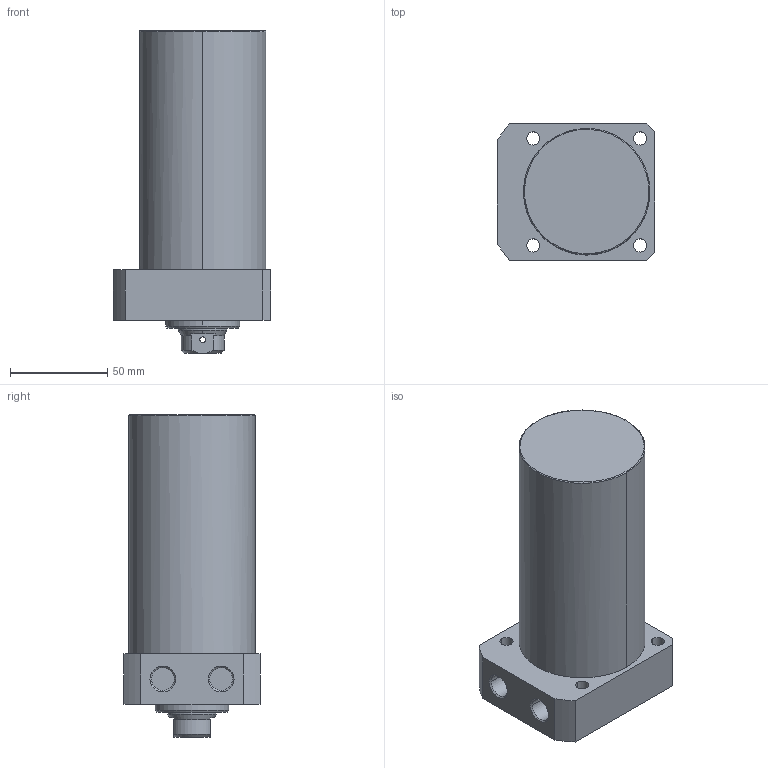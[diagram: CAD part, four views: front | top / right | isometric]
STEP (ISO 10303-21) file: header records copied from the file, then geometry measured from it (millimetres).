
FILE_DESCRIPTION((' '),'2;1');
FILE_NAME( 'TLLR-065CB-090.STEP.stp', '2025-10-24T16:34:56', (' '), ('--- Datakit www.datakit.com---'), ' Datakit CrossCadWare V2024.1 Dec 21 2023', 'Mastercam 2025', ' ');
FILE_SCHEMA(('AUTOMOTIVE_DESIGN { 1 0 10303 214 1 1 1 1 }'));
Length unit declared in the file: millimetre
Products named in the file (1): TLLR-065CB-090
Bounding box: 81 x 70 x 166 mm (x, y, z)
Volume: 552038.4 mm3; surface area: 49587.4 mm2
Topology: 1 solids, 1 shells, 67 faces, 197 edges, 136 vertices
Faces by surface type: cylinder 32, plane 19, cone 14, torus 2
Entity records: 3278 total; most frequent: CARTESIAN_POINT 1359, DIRECTION 426, ORIENTED_EDGE 390, EDGE_CURVE 195, AXIS2_PLACEMENT_3D 179, VERTEX_POINT 136, CIRCLE 111, EDGE_LOOP 85
